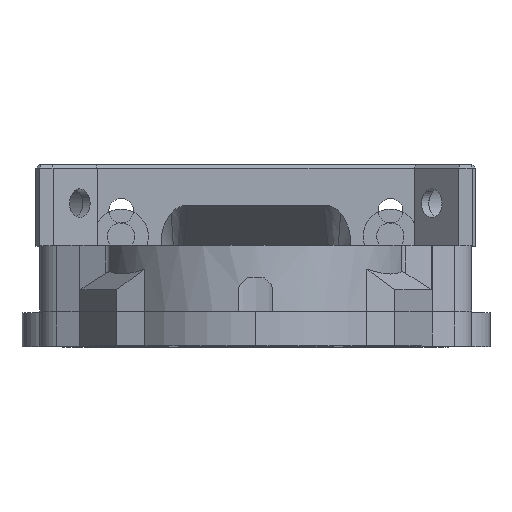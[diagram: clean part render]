
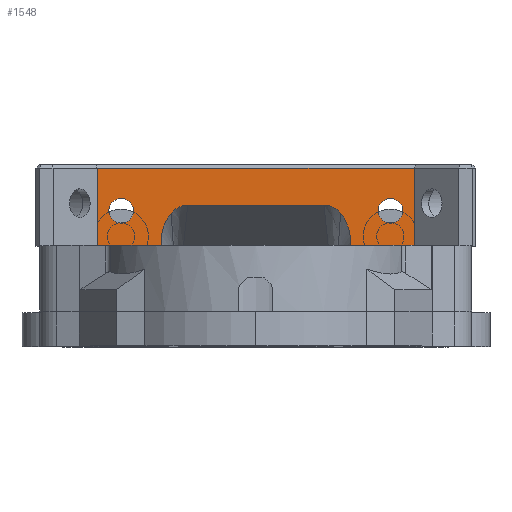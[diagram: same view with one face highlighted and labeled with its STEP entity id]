
A CAD part, top view. The second image highlights one B-rep face of the part: STEP entity #1548.
In plain terms, the highlighted planar face has unit normal (0, 0, 1).
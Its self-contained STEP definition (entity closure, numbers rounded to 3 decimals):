
#522=CARTESIAN_POINT('',(-188.406,12.868,-27.067));
#523=VERTEX_POINT('',#522);
#530=CARTESIAN_POINT('',(-188.107,13.125,-27.067));
#531=VERTEX_POINT('',#530);
#532=CARTESIAN_POINT('',(-190.204,15.27,-27.067));
#533=DIRECTION('',(0.,0.,1.));
#534=DIRECTION('',(1.,0.,-0.));
#535=AXIS2_PLACEMENT_3D('',#532,#533,#534);
#536=CIRCLE('',#535,3.);
#537=EDGE_CURVE('',#523,#531,#536,.T.);
#553=CARTESIAN_POINT('',(-184.643,16.511,-27.067));
#554=VERTEX_POINT('',#553);
#570=CARTESIAN_POINT('',(-184.643,16.511,-27.067));
#571=DIRECTION('',(-0.715,-0.699,0.));
#572=VECTOR('',#571,4.844);
#573=LINE('',#570,#572);
#574=EDGE_CURVE('',#554,#531,#573,.T.);
#595=CARTESIAN_POINT('',(-203.255,13.125,-27.067));
#596=VERTEX_POINT('',#595);
#603=CARTESIAN_POINT('',(-202.956,12.868,-27.067));
#604=VERTEX_POINT('',#603);
#605=CARTESIAN_POINT('',(-201.158,15.27,-27.067));
#606=DIRECTION('',(0.,0.,1.));
#607=DIRECTION('',(1.,0.,-0.));
#608=AXIS2_PLACEMENT_3D('',#605,#606,#607);
#609=CIRCLE('',#608,3.);
#610=EDGE_CURVE('',#596,#604,#609,.T.);
#643=CARTESIAN_POINT('',(-206.719,16.511,-27.067));
#644=VERTEX_POINT('',#643);
#651=CARTESIAN_POINT('',(-206.719,16.511,-27.067));
#652=DIRECTION('',(0.715,-0.699,0.));
#653=VECTOR('',#652,4.844);
#654=LINE('',#651,#653);
#655=EDGE_CURVE('',#644,#596,#654,.T.);
#1375=CARTESIAN_POINT('',(-195.681,18.757,-27.067));
#1376=DIRECTION('',(0.,0.,1.));
#1377=DIRECTION('',(1.,0.,0.));
#1378=AXIS2_PLACEMENT_3D('',#1375,#1376,#1377);
#1379=PLANE('',#1378);
#1380=CARTESIAN_POINT('',(-210.031,20.87,-27.067));
#1381=VERTEX_POINT('',#1380);
#1382=CARTESIAN_POINT('',(-211.481,20.87,-27.067));
#1383=DIRECTION('',(-0.,-0.,-1.));
#1384=DIRECTION('',(1.,0.,-0.));
#1385=AXIS2_PLACEMENT_3D('',#1382,#1383,#1384);
#1386=CIRCLE('',#1385,1.45);
#1387=EDGE_CURVE('',#1381,#1381,#1386,.T.);
#1388=ORIENTED_EDGE('',*,*,#1387,.T.);
#1389=EDGE_LOOP('',(#1388));
#1390=FACE_BOUND('',#1389,.T.);
#1391=CARTESIAN_POINT('',(-177.081,25.87,-27.067));
#1392=VERTEX_POINT('',#1391);
#1393=CARTESIAN_POINT('',(-177.081,16.67,-27.067));
#1394=VERTEX_POINT('',#1393);
#1395=CARTESIAN_POINT('',(-177.081,25.87,-27.067));
#1396=DIRECTION('',(-0.,-1.,0.));
#1397=VECTOR('',#1396,9.2);
#1398=LINE('',#1395,#1397);
#1399=EDGE_CURVE('',#1392,#1394,#1398,.T.);
#1400=ORIENTED_EDGE('',*,*,#1399,.F.);
#1401=CARTESIAN_POINT('',(-214.281,25.87,-27.067));
#1402=VERTEX_POINT('',#1401);
#1403=CARTESIAN_POINT('',(-177.081,25.87,-27.067));
#1404=DIRECTION('',(-1.,-0.,0.));
#1405=VECTOR('',#1404,37.2);
#1406=LINE('',#1403,#1405);
#1407=EDGE_CURVE('',#1392,#1402,#1406,.T.);
#1408=ORIENTED_EDGE('',*,*,#1407,.T.);
#1409=CARTESIAN_POINT('',(-214.281,16.67,-27.067));
#1410=VERTEX_POINT('',#1409);
#1411=CARTESIAN_POINT('',(-214.281,25.87,-27.067));
#1412=DIRECTION('',(-0.,-1.,-0.));
#1413=VECTOR('',#1412,9.2);
#1414=LINE('',#1411,#1413);
#1415=EDGE_CURVE('',#1402,#1410,#1414,.T.);
#1416=ORIENTED_EDGE('',*,*,#1415,.T.);
#1417=CARTESIAN_POINT('',(-218.531,16.67,-27.067));
#1418=VERTEX_POINT('',#1417);
#1419=CARTESIAN_POINT('',(-214.281,16.67,-27.067));
#1420=DIRECTION('',(-1.,-0.,0.));
#1421=VECTOR('',#1420,4.25);
#1422=LINE('',#1419,#1421);
#1423=EDGE_CURVE('',#1410,#1418,#1422,.T.);
#1424=ORIENTED_EDGE('',*,*,#1423,.T.);
#1425=CARTESIAN_POINT('',(-218.531,12.62,-27.067));
#1426=VERTEX_POINT('',#1425);
#1427=CARTESIAN_POINT('',(-218.531,16.67,-27.067));
#1428=DIRECTION('',(-0.,-1.,-0.));
#1429=VECTOR('',#1428,4.05);
#1430=LINE('',#1427,#1429);
#1431=EDGE_CURVE('',#1418,#1426,#1430,.T.);
#1432=ORIENTED_EDGE('',*,*,#1431,.T.);
#1433=CARTESIAN_POINT('',(-211.531,12.62,-27.067));
#1434=VERTEX_POINT('',#1433);
#1435=CARTESIAN_POINT('',(-218.531,12.62,-27.067));
#1436=DIRECTION('',(1.,0.,-0.));
#1437=VECTOR('',#1436,7.);
#1438=LINE('',#1435,#1437);
#1439=EDGE_CURVE('',#1426,#1434,#1438,.T.);
#1440=ORIENTED_EDGE('',*,*,#1439,.T.);
#1441=CARTESIAN_POINT('',(-202.956,12.62,-27.067));
#1442=VERTEX_POINT('',#1441);
#1443=CARTESIAN_POINT('',(-211.531,12.62,-27.067));
#1444=DIRECTION('',(1.,0.,-0.));
#1445=VECTOR('',#1444,8.575);
#1446=LINE('',#1443,#1445);
#1447=EDGE_CURVE('',#1434,#1442,#1446,.T.);
#1448=ORIENTED_EDGE('',*,*,#1447,.T.);
#1449=CARTESIAN_POINT('',(-202.956,12.62,-27.067));
#1450=DIRECTION('',(0.,1.,0.));
#1451=VECTOR('',#1450,0.248);
#1452=LINE('',#1449,#1451);
#1453=EDGE_CURVE('',#1442,#604,#1452,.T.);
#1454=ORIENTED_EDGE('',*,*,#1453,.T.);
#1455=ORIENTED_EDGE('',*,*,#610,.F.);
#1456=ORIENTED_EDGE('',*,*,#655,.F.);
#1457=CARTESIAN_POINT('',(-205.626,20.582,-27.067));
#1458=VERTEX_POINT('',#1457);
#1459=CARTESIAN_POINT('',(-205.626,20.582,-27.067));
#1460=CARTESIAN_POINT('',(-207.075,18.789,-27.067));
#1461=CARTESIAN_POINT('',(-206.719,16.511,-27.067));
#1462=(BOUNDED_CURVE()
B_SPLINE_CURVE(2,(#1459,#1460,#1461),.UNSPECIFIED.,.F.,.F.)
B_SPLINE_CURVE_WITH_KNOTS((3,3),(141.058,188.883),.UNSPECIFIED.)
CURVE()
GEOMETRIC_REPRESENTATION_ITEM()
RATIONAL_B_SPLINE_CURVE((1.,0.914,1.))
REPRESENTATION_ITEM(''));
#1463=EDGE_CURVE('',#1458,#644,#1462,.T.);
#1464=ORIENTED_EDGE('',*,*,#1463,.F.);
#1465=CARTESIAN_POINT('',(-203.681,21.511,-27.067));
#1466=VERTEX_POINT('',#1465);
#1467=CARTESIAN_POINT('',(-203.681,21.511,-27.067));
#1468=CARTESIAN_POINT('',(-204.875,21.511,-27.067));
#1469=CARTESIAN_POINT('',(-205.626,20.582,-27.067));
#1470=(BOUNDED_CURVE()
B_SPLINE_CURVE(2,(#1467,#1468,#1469),.UNSPECIFIED.,.F.,.F.)
B_SPLINE_CURVE_WITH_KNOTS((3,3),(90.,141.058),.UNSPECIFIED.)
CURVE()
GEOMETRIC_REPRESENTATION_ITEM()
RATIONAL_B_SPLINE_CURVE((1.,0.902,1.))
REPRESENTATION_ITEM(''));
#1471=EDGE_CURVE('',#1466,#1458,#1470,.T.);
#1472=ORIENTED_EDGE('',*,*,#1471,.F.);
#1473=CARTESIAN_POINT('',(-187.681,21.511,-27.067));
#1474=VERTEX_POINT('',#1473);
#1475=CARTESIAN_POINT('',(-203.681,21.511,-27.067));
#1476=DIRECTION('',(1.,0.,-0.));
#1477=VECTOR('',#1476,16.);
#1478=LINE('',#1475,#1477);
#1479=EDGE_CURVE('',#1466,#1474,#1478,.T.);
#1480=ORIENTED_EDGE('',*,*,#1479,.T.);
#1481=CARTESIAN_POINT('',(-185.737,20.582,-27.067));
#1482=VERTEX_POINT('',#1481);
#1483=CARTESIAN_POINT('',(-185.737,20.582,-27.067));
#1484=CARTESIAN_POINT('',(-186.487,21.511,-27.067));
#1485=CARTESIAN_POINT('',(-187.681,21.511,-27.067));
#1486=(BOUNDED_CURVE()
B_SPLINE_CURVE(2,(#1483,#1484,#1485),.UNSPECIFIED.,.F.,.F.)
B_SPLINE_CURVE_WITH_KNOTS((3,3),(38.942,90.),.UNSPECIFIED.)
CURVE()
GEOMETRIC_REPRESENTATION_ITEM()
RATIONAL_B_SPLINE_CURVE((1.,0.902,1.))
REPRESENTATION_ITEM(''));
#1487=EDGE_CURVE('',#1482,#1474,#1486,.T.);
#1488=ORIENTED_EDGE('',*,*,#1487,.F.);
#1489=CARTESIAN_POINT('',(-184.643,16.511,-27.067));
#1490=CARTESIAN_POINT('',(-184.287,18.789,-27.067));
#1491=CARTESIAN_POINT('',(-185.737,20.582,-27.067));
#1492=(BOUNDED_CURVE()
B_SPLINE_CURVE(2,(#1489,#1490,#1491),.UNSPECIFIED.,.F.,.F.)
B_SPLINE_CURVE_WITH_KNOTS((3,3),(351.117,398.942),.UNSPECIFIED.)
CURVE()
GEOMETRIC_REPRESENTATION_ITEM()
RATIONAL_B_SPLINE_CURVE((1.,0.914,1.))
REPRESENTATION_ITEM(''));
#1493=EDGE_CURVE('',#554,#1482,#1492,.T.);
#1494=ORIENTED_EDGE('',*,*,#1493,.F.);
#1495=ORIENTED_EDGE('',*,*,#574,.T.);
#1496=ORIENTED_EDGE('',*,*,#537,.F.);
#1497=CARTESIAN_POINT('',(-188.406,12.62,-27.067));
#1498=VERTEX_POINT('',#1497);
#1499=CARTESIAN_POINT('',(-188.406,12.868,-27.067));
#1500=DIRECTION('',(-0.,-1.,-0.));
#1501=VECTOR('',#1500,0.248);
#1502=LINE('',#1499,#1501);
#1503=EDGE_CURVE('',#523,#1498,#1502,.T.);
#1504=ORIENTED_EDGE('',*,*,#1503,.T.);
#1505=CARTESIAN_POINT('',(-179.831,12.62,-27.067));
#1506=VERTEX_POINT('',#1505);
#1507=CARTESIAN_POINT('',(-188.406,12.62,-27.067));
#1508=DIRECTION('',(1.,0.,-0.));
#1509=VECTOR('',#1508,8.575);
#1510=LINE('',#1507,#1509);
#1511=EDGE_CURVE('',#1498,#1506,#1510,.T.);
#1512=ORIENTED_EDGE('',*,*,#1511,.T.);
#1513=CARTESIAN_POINT('',(-172.831,12.62,-27.067));
#1514=VERTEX_POINT('',#1513);
#1515=CARTESIAN_POINT('',(-179.831,12.62,-27.067));
#1516=DIRECTION('',(1.,0.,-0.));
#1517=VECTOR('',#1516,7.);
#1518=LINE('',#1515,#1517);
#1519=EDGE_CURVE('',#1506,#1514,#1518,.T.);
#1520=ORIENTED_EDGE('',*,*,#1519,.T.);
#1521=CARTESIAN_POINT('',(-172.831,16.67,-27.067));
#1522=VERTEX_POINT('',#1521);
#1523=CARTESIAN_POINT('',(-172.831,16.67,-27.067));
#1524=DIRECTION('',(0.,-1.,0.));
#1525=VECTOR('',#1524,4.05);
#1526=LINE('',#1523,#1525);
#1527=EDGE_CURVE('',#1522,#1514,#1526,.T.);
#1528=ORIENTED_EDGE('',*,*,#1527,.F.);
#1529=CARTESIAN_POINT('',(-177.081,16.67,-27.067));
#1530=DIRECTION('',(1.,0.,-0.));
#1531=VECTOR('',#1530,4.25);
#1532=LINE('',#1529,#1531);
#1533=EDGE_CURVE('',#1394,#1522,#1532,.T.);
#1534=ORIENTED_EDGE('',*,*,#1533,.F.);
#1535=EDGE_LOOP('',(#1400,#1408,#1416,#1424,#1432,#1440,#1448,#1454,#1455,#1456,#1464,#1472,#1480,#1488,#1494,#1495,#1496,#1504,#1512,#1520,#1528,#1534));
#1536=FACE_BOUND('',#1535,.T.);
#1537=CARTESIAN_POINT('',(-178.431,20.87,-27.067));
#1538=VERTEX_POINT('',#1537);
#1539=CARTESIAN_POINT('',(-179.881,20.87,-27.067));
#1540=DIRECTION('',(-0.,-0.,-1.));
#1541=DIRECTION('',(1.,0.,-0.));
#1542=AXIS2_PLACEMENT_3D('',#1539,#1540,#1541);
#1543=CIRCLE('',#1542,1.45);
#1544=EDGE_CURVE('',#1538,#1538,#1543,.T.);
#1545=ORIENTED_EDGE('',*,*,#1544,.T.);
#1546=EDGE_LOOP('',(#1545));
#1547=FACE_BOUND('',#1546,.T.);
#1548=ADVANCED_FACE('',(#1390,#1536,#1547),#1379,.T.);
